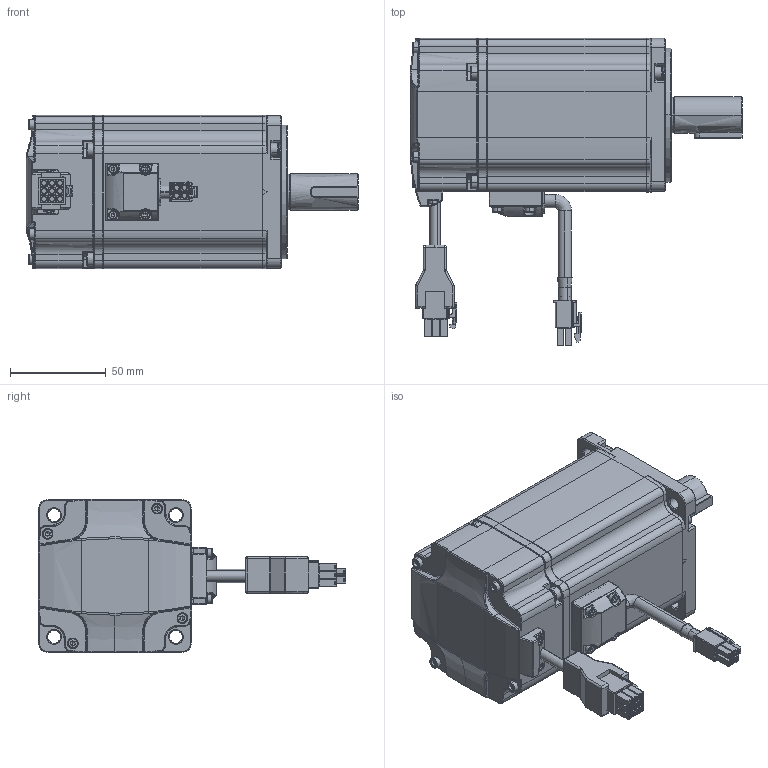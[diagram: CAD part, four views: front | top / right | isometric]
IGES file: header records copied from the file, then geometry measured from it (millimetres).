
Start section: SolidWorks IGES file using analytic representation for surfaces
Global section: file name: D:\¹¤×÷\2023.11\2023.11.10\1\EM3J-10ATA221.IGS; native system: SolidWorks 2018; preprocessor: SolidWorks 2018; author: wangyitong; date: 231116.093606; units: millimetre
Bounding box: 173.5 x 160.49 x 80 mm (x, y, z)
Surface area: 118113.2 mm2 (no closed solid volume)
Topology: 0 solids, 0 shells, 2341 faces, 23030 edges, 22939 vertices
Faces by surface type: bspline 1334, revolution 1007
